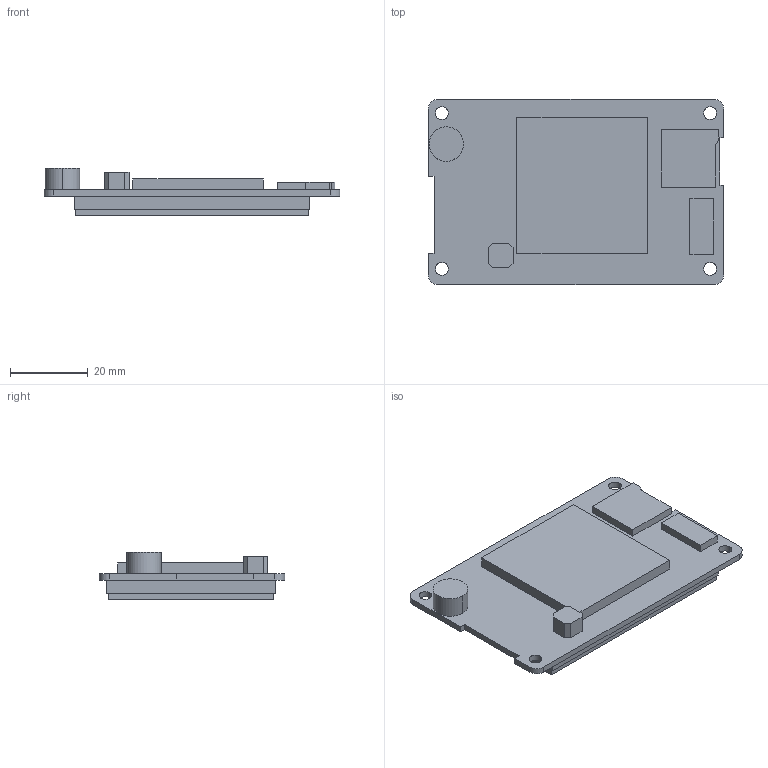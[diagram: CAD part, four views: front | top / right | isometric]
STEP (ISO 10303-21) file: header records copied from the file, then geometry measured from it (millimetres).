
FILE_DESCRIPTION((''),'2;1');
FILE_NAME('DMG32240C024-03WN-WTR-WTC','2022-05-23T',('Administrator'),(''),'PRO/ENGINEER BY PARAMETRIC TECHNOLOGY CORPORATION, 2008380','PRO/ENGINEER BY PARAMETRIC TECHNOLOGY CORPORATION, 2008380','');
FILE_SCHEMA(('CONFIG_CONTROL_DESIGN'));
Length unit declared in the file: millimetre
Products named in the file (1): DMG32240C024-03WN-WTR-WTC
Bounding box: 76.2 x 47.75 x 12.13 mm (x, y, z)
Volume: 22498.9 mm3; surface area: 13334.2 mm2
Topology: 1 solids, 2 shells, 71 faces, 8213 edges, 13026 vertices
Faces by surface type: plane 57, cylinder 14
Entity records: 45532 total; most frequent: DIRECTION 11554, CARTESIAN_POINT 8405, TRIMMED_CURVE 8033, VECTOR 5016, LINE 5016, AXIS2_PLACEMENT_3D 3269, CIRCLE 3197, ORIENTED_EDGE 360
